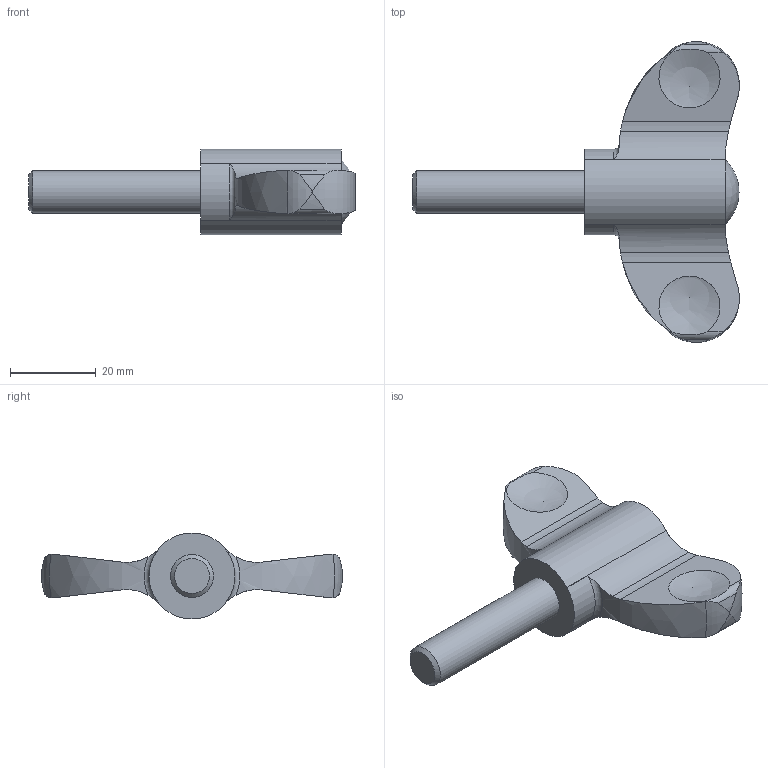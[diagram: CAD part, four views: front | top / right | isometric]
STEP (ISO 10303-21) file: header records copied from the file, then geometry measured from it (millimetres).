
FILE_DESCRIPTION( ( 'STEP AP203' ), '1' );
FILE_NAME( 'C:/Temp/Ganter_Step_05_03_2020/data/2_2/gn_633/Wing nut GN 633-70-M10-40-DGB.stp', '2020-03-05T12:21:19', ( 'License CC BY-ND 4.0' ), ( 'CADENAS' ), ' ', 'PARTsolutions', ' ' );
FILE_SCHEMA( ( 'CONFIG_CONTROL_DESIGN' ) );
Length unit declared in the file: millimetre
Products named in the file (1): _Wing nut GN 633-70-M10-40-DGB
Bounding box: 76 x 70 x 20 mm (x, y, z)
Volume: 22093.9 mm3; surface area: 6839.1 mm2
Topology: 1 solids, 1 shells, 46 faces, 133 edges, 89 vertices
Faces by surface type: cylinder 25, plane 7, sphere 5, torus 4, bspline 4, cone 1
Full cylindrical faces by diameter (mm): 10 x1
Entity records: 2042 total; most frequent: CARTESIAN_POINT 953, ORIENTED_EDGE 236, DIRECTION 180, EDGE_CURVE 118, VERTEX_POINT 84, AXIS2_PLACEMENT_3D 75, B_SPLINE_CURVE_WITH_KNOTS 56, EDGE_LOOP 52
